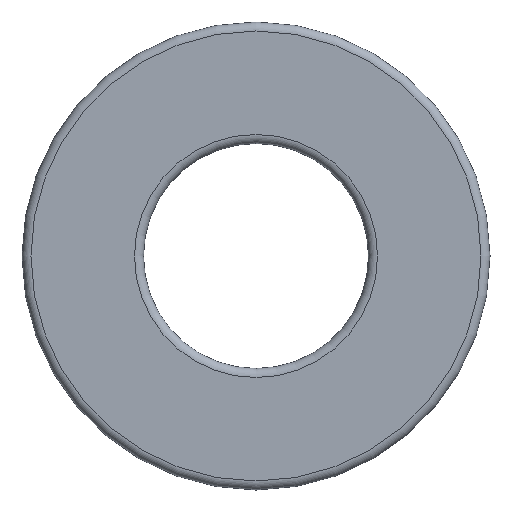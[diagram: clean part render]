
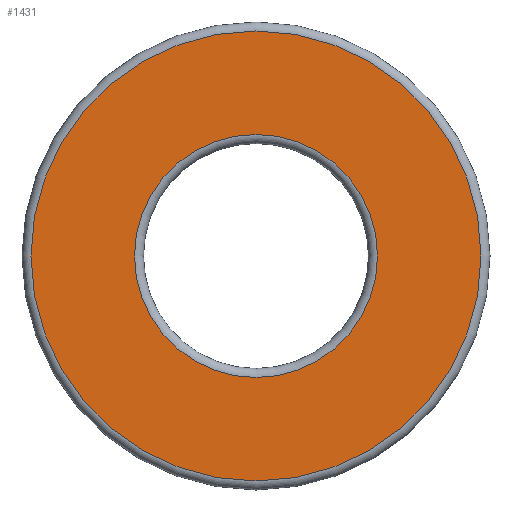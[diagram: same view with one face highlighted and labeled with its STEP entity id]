
A CAD part, front view. The second image highlights one B-rep face of the part: STEP entity #1431.
In plain terms, the highlighted planar face has unit normal (0, -1, 0).
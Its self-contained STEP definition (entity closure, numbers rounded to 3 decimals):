
#119=PLANE('',#1564);
#203=FACE_BOUND('',#402,.T.);
#277=FACE_OUTER_BOUND('',#401,.T.);
#401=EDGE_LOOP('',(#1074));
#402=EDGE_LOOP('',(#1075));
#566=CIRCLE('',#1563,25.);
#567=CIRCLE('',#1565,13.5);
#751=VERTEX_POINT('',#2517);
#752=VERTEX_POINT('',#2520);
#873=EDGE_CURVE('',#751,#751,#566,.T.);
#874=EDGE_CURVE('',#752,#752,#567,.T.);
#1074=ORIENTED_EDGE('',*,*,#873,.F.);
#1075=ORIENTED_EDGE('',*,*,#874,.F.);
#1431=ADVANCED_FACE('',(#277,#203),#119,.T.);
#1563=AXIS2_PLACEMENT_3D('',#2518,#1912,#1913);
#1564=AXIS2_PLACEMENT_3D('',#2519,#1914,#1915);
#1565=AXIS2_PLACEMENT_3D('',#2521,#1916,#1917);
#1912=DIRECTION('center_axis',(0.,1.,0.));
#1913=DIRECTION('ref_axis',(-1.,0.,0.));
#1914=DIRECTION('center_axis',(0.,-1.,0.));
#1915=DIRECTION('ref_axis',(0.,0.,-1.));
#1916=DIRECTION('center_axis',(0.,-1.,0.));
#1917=DIRECTION('ref_axis',(-1.,0.,0.));
#2517=CARTESIAN_POINT('',(25.,-9.,0.));
#2518=CARTESIAN_POINT('Origin',(0.,-9.,0.));
#2519=CARTESIAN_POINT('Origin',(12.5,-9.,0.));
#2520=CARTESIAN_POINT('',(13.5,-9.,0.));
#2521=CARTESIAN_POINT('Origin',(0.,-9.,0.));
